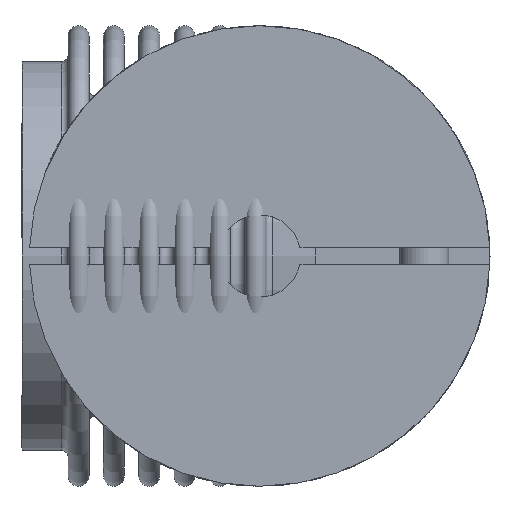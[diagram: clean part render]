
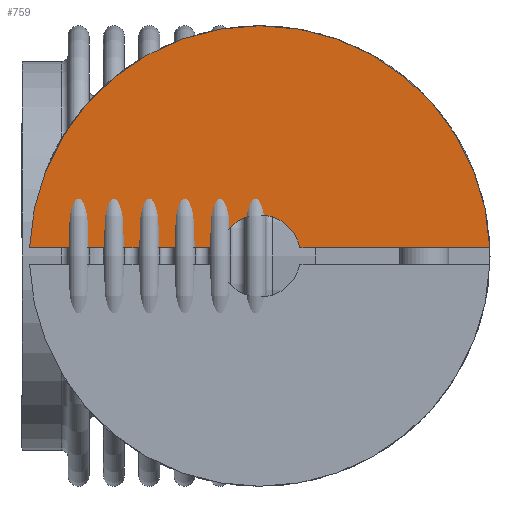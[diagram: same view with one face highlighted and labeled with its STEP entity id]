
A CAD part, front view. The second image highlights one B-rep face of the part: STEP entity #759.
In plain terms, the highlighted planar face has unit normal (0, -1, 0).
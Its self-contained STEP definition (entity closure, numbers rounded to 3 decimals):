
#759 = ADVANCED_FACE( '', ( #1140 ), #1141, .F. );
#1140 = FACE_OUTER_BOUND( '', #1359, .T. );
#1141 = PLANE( '', #1360 );
#1359 = EDGE_LOOP( '', ( #1650, #1651, #1652, #1653 ) );
#1360 = AXIS2_PLACEMENT_3D( '', #1654, #1655, #1656 );
#1650 = ORIENTED_EDGE( '', *, *, #2068, .F. );
#1651 = ORIENTED_EDGE( '', *, *, #2057, .F. );
#1652 = ORIENTED_EDGE( '', *, *, #2069, .F. );
#1653 = ORIENTED_EDGE( '', *, *, #2067, .T. );
#1654 = CARTESIAN_POINT( '', ( 0., -27., 0. ) );
#1655 = DIRECTION( '', ( 0., 1., 0. ) );
#1656 = DIRECTION( '', ( 0., 0., 1. ) );
#2057 = EDGE_CURVE( '', #2300, #2302, #2303, .T. );
#2067 = EDGE_CURVE( '', #2316, #2320, #2322, .T. );
#2068 = EDGE_CURVE( '', #2302, #2320, #2323, .T. );
#2069 = EDGE_CURVE( '', #2316, #2300, #2324, .T. );
#2300 = VERTEX_POINT( '', #2511 );
#2302 = VERTEX_POINT( '', #2514 );
#2303 = CIRCLE( '', #2515, 28. );
#2316 = VERTEX_POINT( '', #2610 );
#2320 = VERTEX_POINT( '', #2615 );
#2322 = CIRCLE( '', #2618, 5. );
#2323 = LINE( '', #2619, #2620 );
#2324 = LINE( '', #2621, #2622 );
#2511 = CARTESIAN_POINT( '', ( -27.982, -27., 1. ) );
#2514 = CARTESIAN_POINT( '', ( 27.982, -27., 1. ) );
#2515 = AXIS2_PLACEMENT_3D( '', #2874, #2875, #2876 );
#2610 = CARTESIAN_POINT( '', ( -4.899, -27., 1. ) );
#2615 = CARTESIAN_POINT( '', ( 4.899, -27., 1. ) );
#2618 = AXIS2_PLACEMENT_3D( '', #2895, #2896, #2897 );
#2619 = CARTESIAN_POINT( '', ( 0., -27., 1. ) );
#2620 = VECTOR( '', #2898, 1000. );
#2621 = CARTESIAN_POINT( '', ( 0., -27., 1. ) );
#2622 = VECTOR( '', #2899, 1000. );
#2874 = CARTESIAN_POINT( '', ( 0., -27., 0. ) );
#2875 = DIRECTION( '', ( 0., 1., 0. ) );
#2876 = DIRECTION( '', ( 1., 0., 0. ) );
#2895 = CARTESIAN_POINT( '', ( 0., -27., 0. ) );
#2896 = DIRECTION( '', ( 0., 1., 0. ) );
#2897 = DIRECTION( '', ( 1., 0., 0. ) );
#2898 = DIRECTION( '', ( -1., 0., 0. ) );
#2899 = DIRECTION( '', ( -1., 0., 0. ) );
